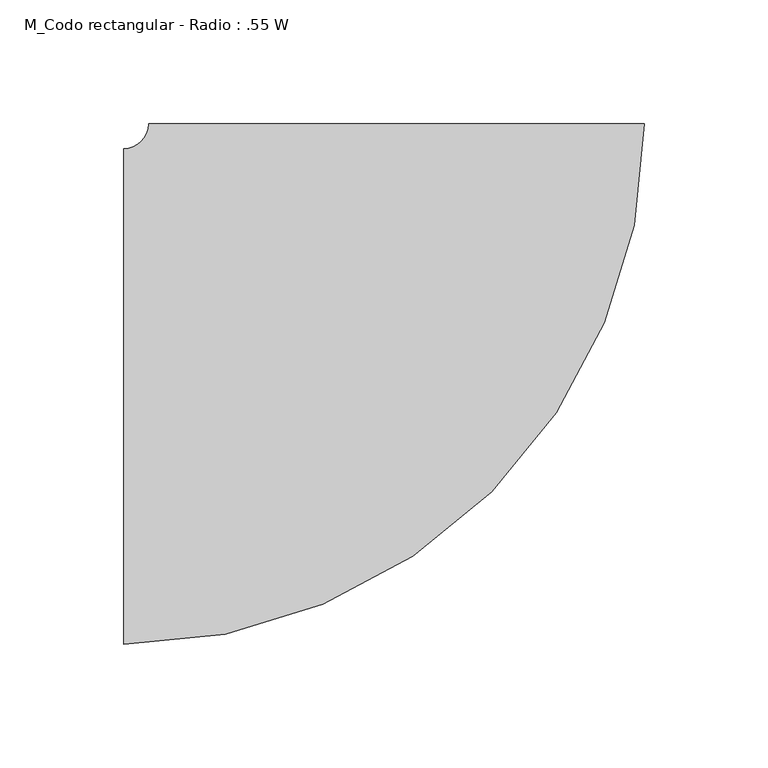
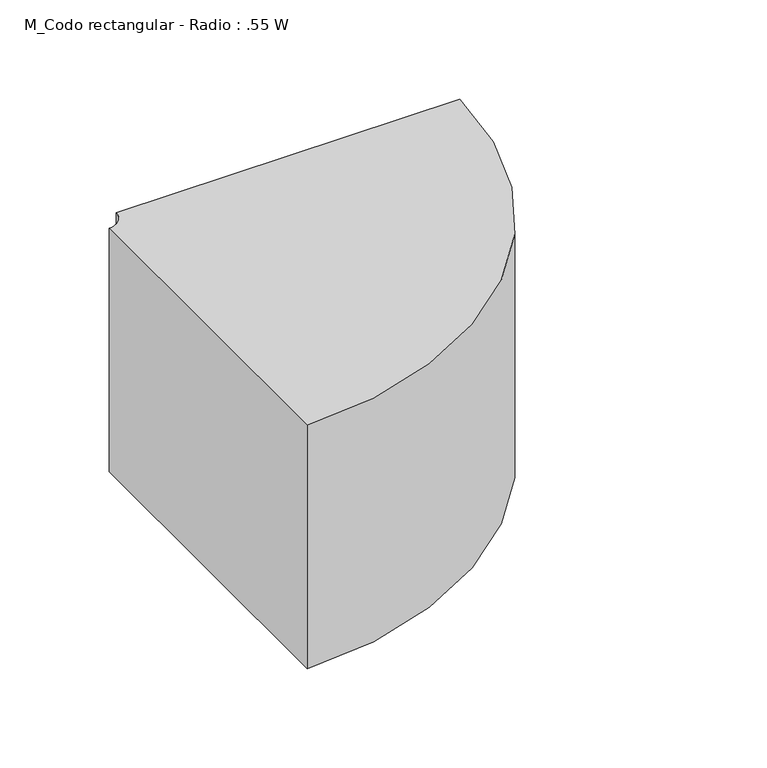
"""IFC4 building model written with IfcOpenShell, lengths in millimetres: duct fitting geometry, M_Codo rectangular - Radio : .55 W."""

from ifc_helpers import new_model, si_unit, point, frame, frame_2d, origin, place, context, project, spatial, polyline, circle_curve, trimmed, segment, composite_curve, outline, extrude, source, transform, mapped, element, save


def m_codo_rectangular_radio_55_w_e1a1bacd(model_context):
    return source(origin(), model_context, "Body", "SweptSolid", [
        extrude(outline(composite_curve([segment(trimmed(circle_curve(frame_2d((-110.0, 110.0)), 210.0), [point((100.0, 110.0))], [point((-110.0, -100.0))], False, "CARTESIAN"), True, "CONTINUOUS"), segment(polyline([(-110.0, -100.0), (-110.0, 100.0)]), True, "CONTINUOUS"), segment(trimmed(circle_curve(frame_2d((-110.0, 110.0)), 10.0), [point((-110.0, 100.0))], [point((-100.0, 110.0))], True, "CARTESIAN"), True, "CONTINUOUS"), segment(polyline([(-100.0, 110.0), (100.0, 110.0)]), True, "CONTINUOUS")], self_intersect=False)), frame((0.0, 0.0, -75.0), z_axis=(0.0, 0.0, 1.0), x_axis=(1.0, 0.0, 0.0)), (0.0, 0.0, 1.0), 150.0),
    ])


if __name__ == "__main__":
    model = new_model("IFC4")
    model_context = context("Model", 3, world=origin())
    ifc_project = project(units=[si_unit("LENGTHUNIT", "METRE", prefix="MILLI")], contexts=[model_context])
    site = spatial("IfcSite", under=ifc_project)
    building = spatial("IfcBuilding", under=site)
    placement = place(None, origin())
    m_codo_rectangular_radio_55_w_shape = m_codo_rectangular_radio_55_w_e1a1bacd(model_context)
    element("IfcDuctFitting", 1, ObjectType="M_Codo rectangular - Radio : .55 W", at=placement, inside=building, context=model_context, shape_type="MappedRepresentation", body=[
        mapped(m_codo_rectangular_radio_55_w_shape, transform((0.0, 0.0, 0.0), x_axis=(1.0, 0.0, 0.0), y_axis=(0.0, 1.0, 0.0), z_axis=(0.0, 0.0, 1.0))),
    ])
    save(model, "model.ifc")
